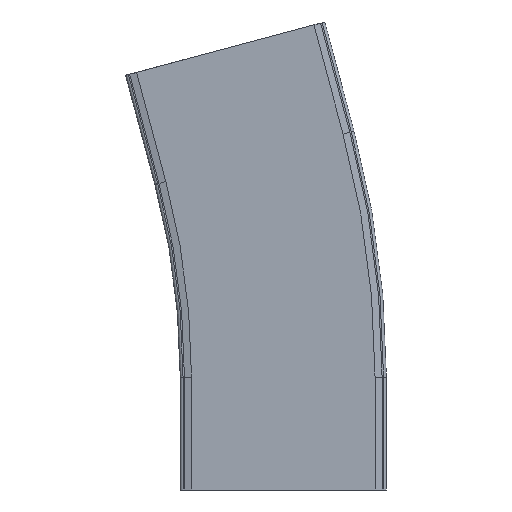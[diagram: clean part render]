
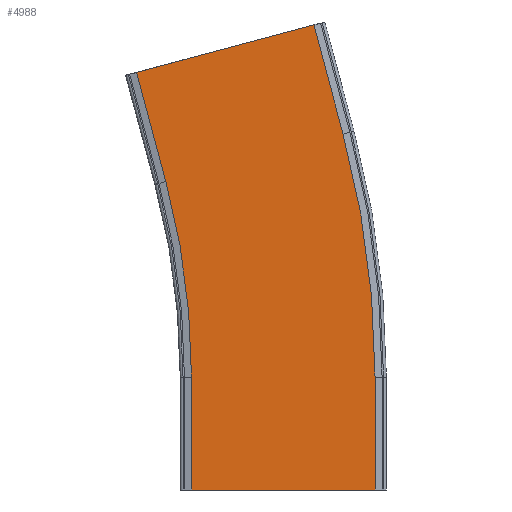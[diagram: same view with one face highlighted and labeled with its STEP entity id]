
A CAD part, front view. The second image highlights one B-rep face of the part: STEP entity #4988.
In plain terms, the highlighted planar face has unit normal (0, -1, 0).
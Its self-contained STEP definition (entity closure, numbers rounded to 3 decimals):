
#4745=CARTESIAN_POINT('',(104.,-74.,0.0));
#4746=VERTEX_POINT('',#4745);
#4753=CARTESIAN_POINT('',(-26.,-74.,0.0));
#4754=VERTEX_POINT('',#4753);
#4755=CARTESIAN_POINT('',(-26.,-74.,0.0));
#4756=DIRECTION('',(1.0,0.0,0.0));
#4757=VECTOR('',#4756,130.);
#4758=LINE('',#4755,#4757);
#4759=EDGE_CURVE('',#4754,#4746,#4758,.T.);
#4814=CARTESIAN_POINT('',(-26.,-74.,80.0));
#4815=VERTEX_POINT('',#4814);
#4824=CARTESIAN_POINT('',(-26.,-74.,0.0));
#4825=DIRECTION('',(0.0,0.0,1.0));
#4826=VECTOR('',#4825,80.0);
#4827=LINE('',#4824,#4826);
#4828=EDGE_CURVE('',#4754,#4815,#4827,.T.);
#4838=CARTESIAN_POINT('',(104.,-74.,80.0));
#4839=VERTEX_POINT('',#4838);
#4848=CARTESIAN_POINT('',(104.,-74.,0.0));
#4849=DIRECTION('',(0.0,0.0,1.0));
#4850=VECTOR('',#4849,80.0);
#4851=LINE('',#4848,#4850);
#4852=EDGE_CURVE('',#4746,#4839,#4851,.T.);
#4871=CARTESIAN_POINT('',(-44.23,-74.,218.468));
#4872=VERTEX_POINT('',#4871);
#4887=CARTESIAN_POINT('',(-561.,-74.,80.0));
#4888=DIRECTION('',(0.0,-1.0,0.0));
#4889=DIRECTION('',(1.0,0.0,0.0));
#4890=AXIS2_PLACEMENT_3D('',#4887,#4888,#4889);
#4891=CIRCLE('',#4890,535.);
#4892=EDGE_CURVE('',#4815,#4872,#4891,.T.);
#4946=CARTESIAN_POINT('',(142.701,-74.,23.113));
#4947=DIRECTION('',(0.0,-1.0,0.0));
#4948=DIRECTION('',(0.259,0.0,-0.966));
#4949=AXIS2_PLACEMENT_3D('',#4946,#4947,#4948);
#4950=PLANE('',#4949);
#4951=CARTESIAN_POINT('',(60.635,-74.,329.389));
#4952=VERTEX_POINT('',#4951);
#4953=CARTESIAN_POINT('',(-64.935,-74.0,295.742));
#4954=VERTEX_POINT('',#4953);
#4955=CARTESIAN_POINT('',(60.635,-74.,329.389));
#4956=DIRECTION('',(-0.966,0.,-0.259));
#4957=VECTOR('',#4956,130.);
#4958=LINE('',#4955,#4957);
#4959=EDGE_CURVE('',#4952,#4954,#4958,.T.);
#4960=ORIENTED_EDGE('',*,*,#4959,.T.);
#4961=CARTESIAN_POINT('',(-44.23,-74.,218.468));
#4962=DIRECTION('',(-0.259,0.0,0.966));
#4963=VECTOR('',#4962,80.);
#4964=LINE('',#4961,#4963);
#4965=EDGE_CURVE('',#4872,#4954,#4964,.T.);
#4966=ORIENTED_EDGE('',*,*,#4965,.F.);
#4967=ORIENTED_EDGE('',*,*,#4892,.F.);
#4968=ORIENTED_EDGE('',*,*,#4828,.F.);
#4969=ORIENTED_EDGE('',*,*,#4759,.T.);
#4970=ORIENTED_EDGE('',*,*,#4852,.T.);
#4971=CARTESIAN_POINT('',(81.341,-74.,252.115));
#4972=VERTEX_POINT('',#4971);
#4973=CARTESIAN_POINT('',(-561.,-74.,80.0));
#4974=DIRECTION('',(0.0,-1.0,0.0));
#4975=DIRECTION('',(1.0,0.0,0.0));
#4976=AXIS2_PLACEMENT_3D('',#4973,#4974,#4975);
#4977=CIRCLE('',#4976,665.);
#4978=EDGE_CURVE('',#4839,#4972,#4977,.T.);
#4979=ORIENTED_EDGE('',*,*,#4978,.T.);
#4980=CARTESIAN_POINT('',(81.341,-74.,252.115));
#4981=DIRECTION('',(-0.259,0.0,0.966));
#4982=VECTOR('',#4981,80.);
#4983=LINE('',#4980,#4982);
#4984=EDGE_CURVE('',#4972,#4952,#4983,.T.);
#4985=ORIENTED_EDGE('',*,*,#4984,.T.);
#4986=EDGE_LOOP('',(#4960,#4966,#4967,#4968,#4969,#4970,#4979,#4985));
#4987=FACE_OUTER_BOUND('',#4986,.T.);
#4988=ADVANCED_FACE('',(#4987),#4950,.T.);
